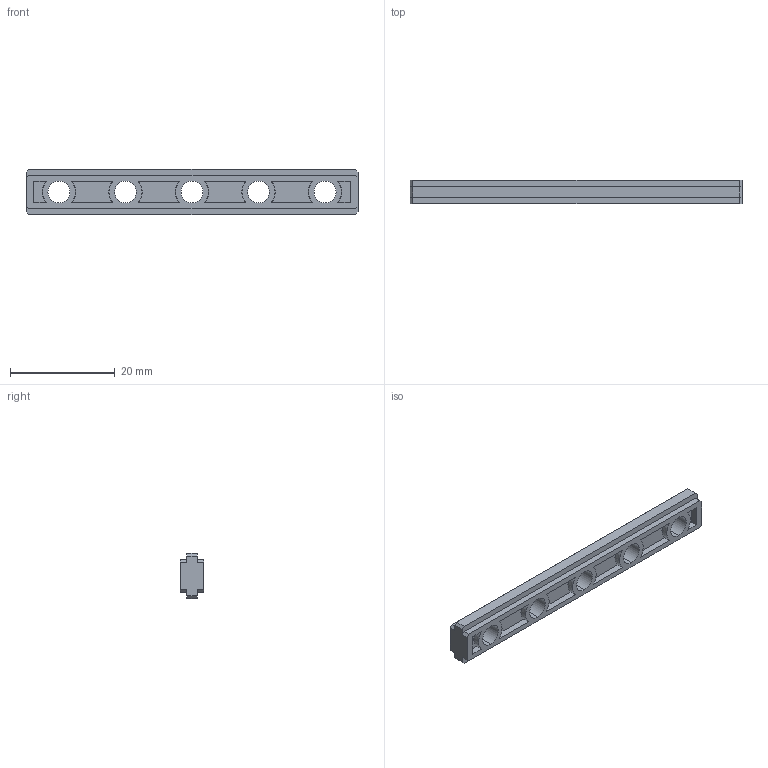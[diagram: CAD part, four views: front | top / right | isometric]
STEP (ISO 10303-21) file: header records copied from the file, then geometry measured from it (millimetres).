
FILE_DESCRIPTION (( 'STEP AP214' ), '1' );
FILE_NAME ('228-2500-1456.STEP', '2021-02-18T20:16:14', ( '' ), ( '' ), 'SwSTEP 2.0', 'SolidWorks 2019', '' );
FILE_SCHEMA (( 'AUTOMOTIVE_DESIGN' ));
Length unit declared in the file: millimetre
Products named in the file (1): 228-2500-1456
Bounding box: 63.4 x 4.57 x 8.6 mm (x, y, z)
Volume: 1469.2 mm3; surface area: 2206 mm2
Topology: 1 solids, 1 shells, 96 faces, 246 edges, 164 vertices
Faces by surface type: plane 66, cone 20, cylinder 10
Entity records: 3004 total; most frequent: CARTESIAN_POINT 627, ORIENTED_EDGE 492, DIRECTION 460, EDGE_CURVE 246, VERTEX_POINT 164, AXIS2_PLACEMENT_3D 157, VECTOR 146, LINE 146
